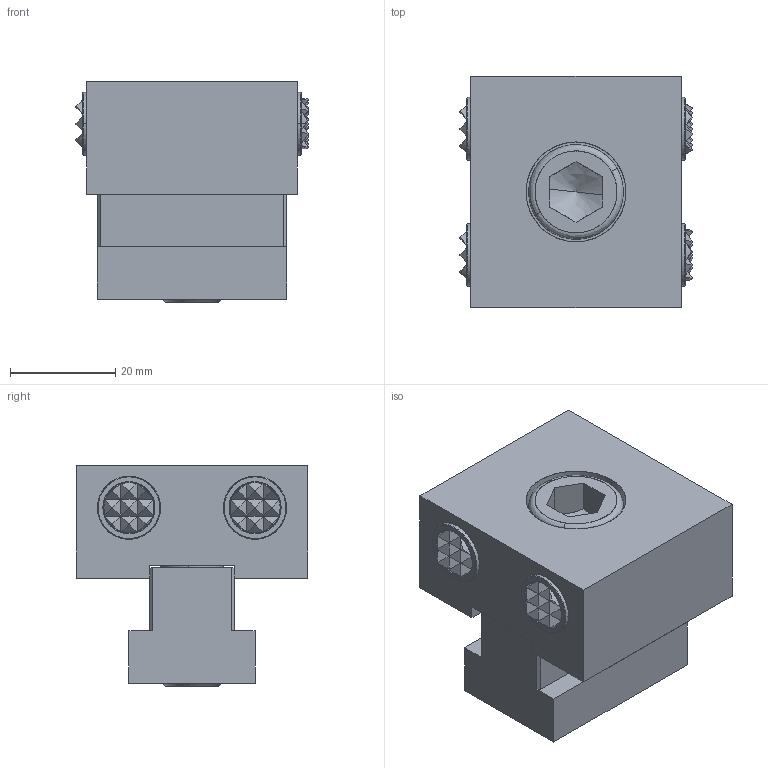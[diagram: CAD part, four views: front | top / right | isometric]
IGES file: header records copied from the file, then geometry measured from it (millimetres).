
Start section: SolidWorks IGES file using analytic representation for surfaces
Global section: file name: X:\11_SW2020-Inv2020\00_全2021-11新製品まで\m\MR-S-S\mr-s-s.IGS; native system: SolidWorks 2020; preprocessor: SolidWorks 2020; author: ImaoCorp; date: 211026.111814; units: millimetre
Bounding box: 44.2 x 44 x 42 mm (x, y, z)
Surface area: 12972.8 mm2 (no closed solid volume)
Topology: 0 solids, 0 shells, 275 faces, 2362 edges, 2360 vertices
Faces by surface type: bspline 223, revolution 52
